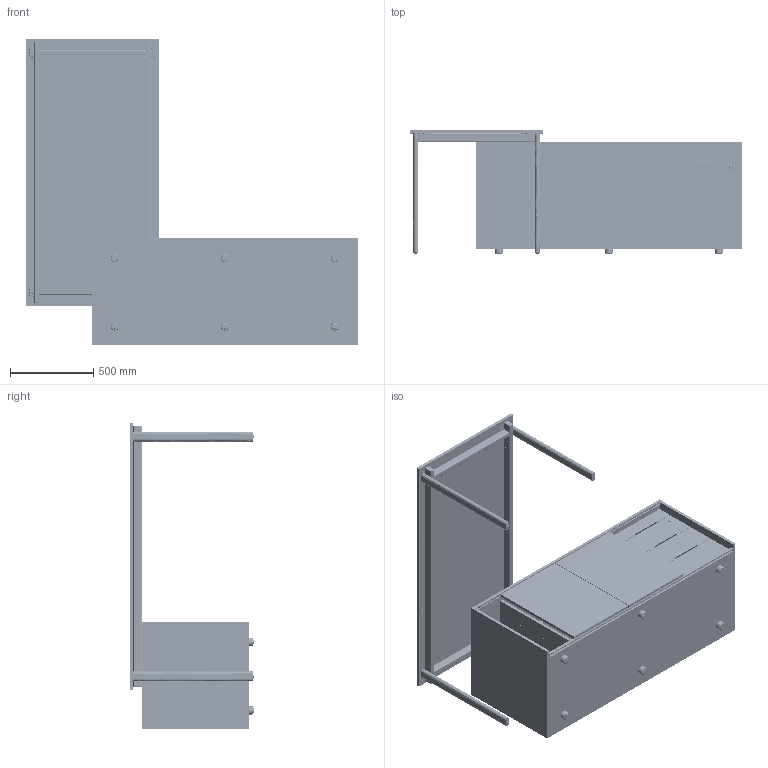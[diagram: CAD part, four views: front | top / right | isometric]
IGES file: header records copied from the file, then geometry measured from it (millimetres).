
Start section: SolidWorks IGES file using analytic representation for surfaces
Global section: file name: C:\Users\caumatel\Desktop\3D MESA TONO\MESA_CREDENZA+CREDENZA.IGS; native system: SolidWorks 2019; preprocessor: SolidWorks 2019; author: caumatel; date: 230124.081622; units: millimetre
Bounding box: 1995 x 742.1 x 1835 mm (x, y, z)
Surface area: 18323288.2 mm2 (no closed solid volume)
Topology: 0 solids, 0 shells, 16644 faces, 141324 edges, 140982 vertices
Faces by surface type: bspline 8343, revolution 8301
